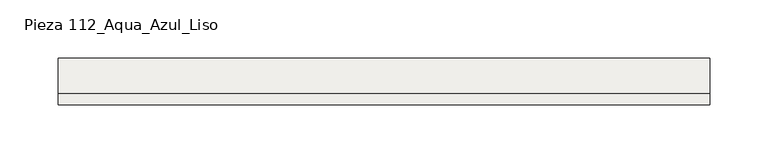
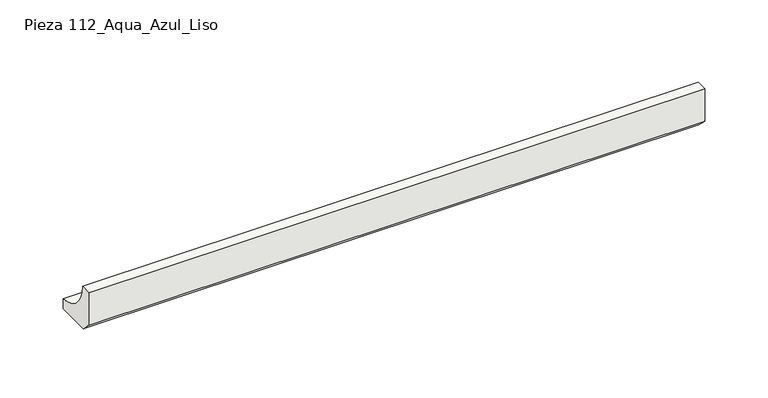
"""IFC4 building model written with IfcOpenShell, lengths in millimetres: slab geometry, ROSA GRES_112 : Pieza 112_Aqua_Azul_Liso."""

from ifc_helpers import new_model, si_unit, point, frame, frame_2d, origin, place, context, project, spatial, polyline, circle_curve, trimmed, segment, composite_curve, outline, extrude, source, transform, mapped, element, save


def pieza_112_aqua_azul_liso_8538c3ba(model_context):
    return source(origin(), model_context, "Body", "SweptSolid", [
        extrude(outline(composite_curve([segment(polyline([(0.0, 8.7114978), (0.0, 40.0), (9.9734114, 40.0)]), True, "CONTINUOUS"), segment(trimmed(circle_curve(frame_2d((39.9955547, 39.9955547)), 30.0221435), [point((9.9734114, 40.0))], [point((40.0, 9.9734114))], True, "CARTESIAN"), True, "CONTINUOUS"), segment(polyline([(40.0, 9.9734114), (40.0, 0.0), (8.7114978, 0.0), (0.0, 8.7114978)]), True, "CONTINUOUS")], self_intersect=False)), frame((0.0, 0.0, 0.0), z_axis=(1.0, 0.0, 0.0), x_axis=(0.0, 1.0, 0.0)), (0.0, 0.0, 1.0), 560.0),
    ])


if __name__ == "__main__":
    model = new_model("IFC4")
    model_context = context("Model", 3, world=origin())
    ifc_project = project(units=[si_unit("LENGTHUNIT", "METRE", prefix="MILLI")], contexts=[model_context])
    site = spatial("IfcSite", under=ifc_project)
    building = spatial("IfcBuilding", under=site)
    placement = place(None, origin())
    pieza_112_aqua_azul_liso_shape = pieza_112_aqua_azul_liso_8538c3ba(model_context)
    element("IfcSlab", 1, ObjectType="ROSA GRES_112 : Pieza 112_Aqua_Azul_Liso", at=placement, inside=building, context=model_context, shape_type="MappedRepresentation", body=[
        mapped(pieza_112_aqua_azul_liso_shape, transform((0.0, 0.0, 0.0), x_axis=(1.0, 0.0, 0.0), y_axis=(0.0, 1.0, 0.0), z_axis=(0.0, 0.0, 1.0))),
    ])
    save(model, "model.ifc")
